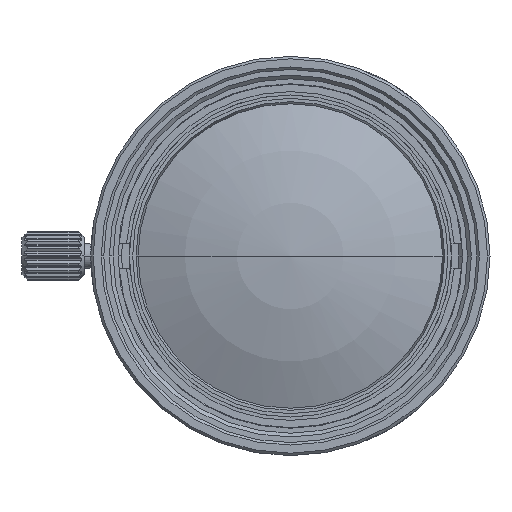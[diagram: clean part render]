
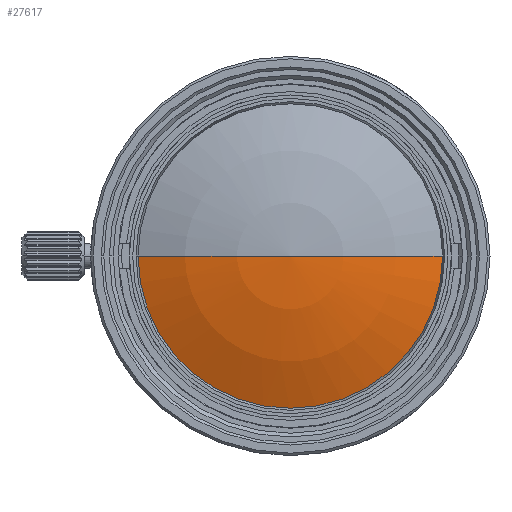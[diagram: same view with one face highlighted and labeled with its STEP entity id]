
A CAD part, left-side view. The second image highlights one B-rep face of the part: STEP entity #27617.
In plain terms, the highlighted spherical face has radius 31.722 mm.
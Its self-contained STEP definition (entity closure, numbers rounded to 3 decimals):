
#4692=CARTESIAN_POINT('',(-52.286,0.,0.));
#4693=DIRECTION('',(1.,0.,0.));
#4694=DIRECTION('',(0.,-1.,0.));
#4695=AXIS2_PLACEMENT_3D('',#4692,#4693,#4694);
#4697=CARTESIAN_POINT('',(-23.123,0.,0.));
#4698=DIRECTION('',(0.,0.,1.));
#4699=DIRECTION('',(-0.919,0.393,0.));
#4700=AXIS2_PLACEMENT_3D('',#4697,#4698,#4699);
#4707=CARTESIAN_POINT('',(-23.123,0.,0.));
#4708=DIRECTION('',(0.,0.,-1.));
#4709=DIRECTION('',(-0.919,-0.393,0.));
#4710=AXIS2_PLACEMENT_3D('',#4707,#4708,#4709);
#22304=CARTESIAN_POINT('',(-52.286,-12.481,0.));
#22305=VERTEX_POINT('',#22304);
#22306=CARTESIAN_POINT('',(-52.286,12.481,0.));
#22307=VERTEX_POINT('',#22306);
#22308=CARTESIAN_POINT('',(-54.845,0.,0.));
#22309=VERTEX_POINT('',#22308);
#27605=CARTESIAN_POINT('',(-23.123,0.,0.));
#27606=DIRECTION('',(1.,0.,0.));
#27607=DIRECTION('',(0.,-1.,0.));
#27608=AXIS2_PLACEMENT_3D('',#27605,#27606,#27607);
#27609=SPHERICAL_SURFACE('',#27608,31.722);
#27610=ORIENTED_EDGE('',*,*,#27599,.T.);
#27612=ORIENTED_EDGE('',*,*,#27611,.T.);
#27614=ORIENTED_EDGE('',*,*,#27613,.F.);
#27615=EDGE_LOOP('',(#27610,#27612,#27614));
#27616=FACE_OUTER_BOUND('',#27615,.F.);
#27617=ADVANCED_FACE('',(#27616),#27609,.T.);
#4696=CIRCLE('',#4695,12.481);
#4701=CIRCLE('',#4700,31.722);
#4711=CIRCLE('',#4710,31.722);
#27599=EDGE_CURVE('',#22305,#22307,#4696,.T.);
#27611=EDGE_CURVE('',#22307,#22309,#4701,.T.);
#27613=EDGE_CURVE('',#22305,#22309,#4711,.T.);
